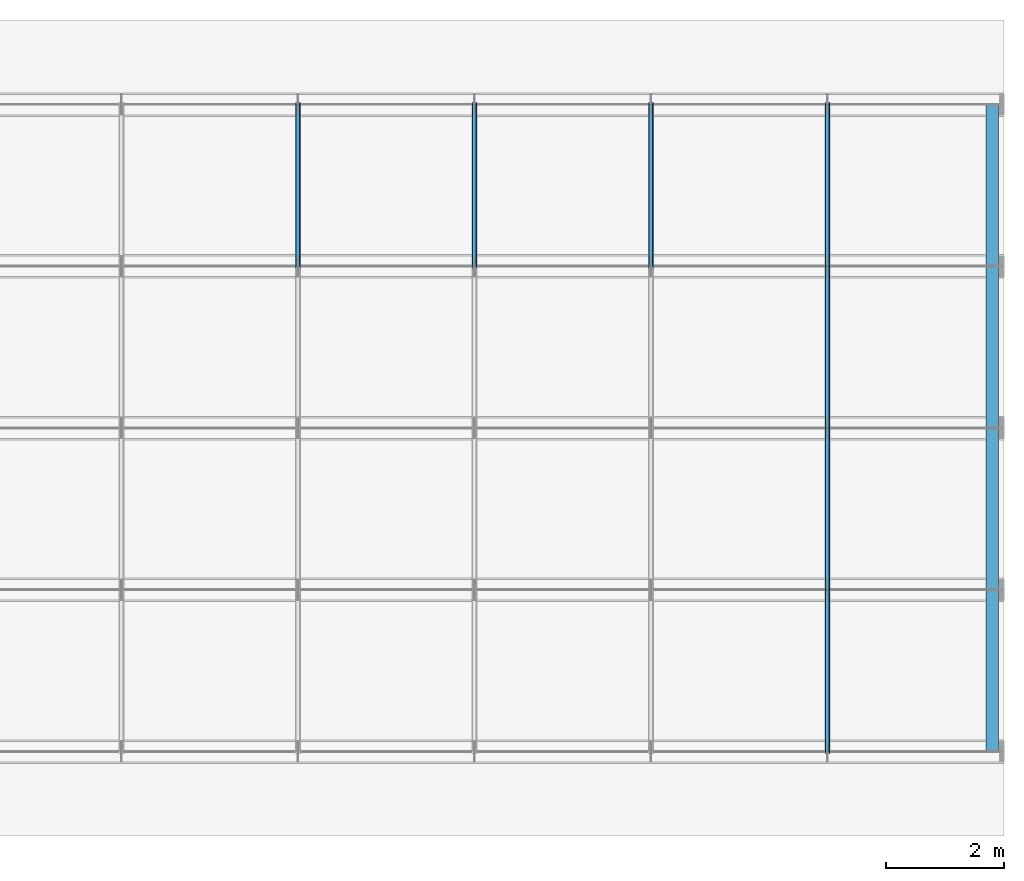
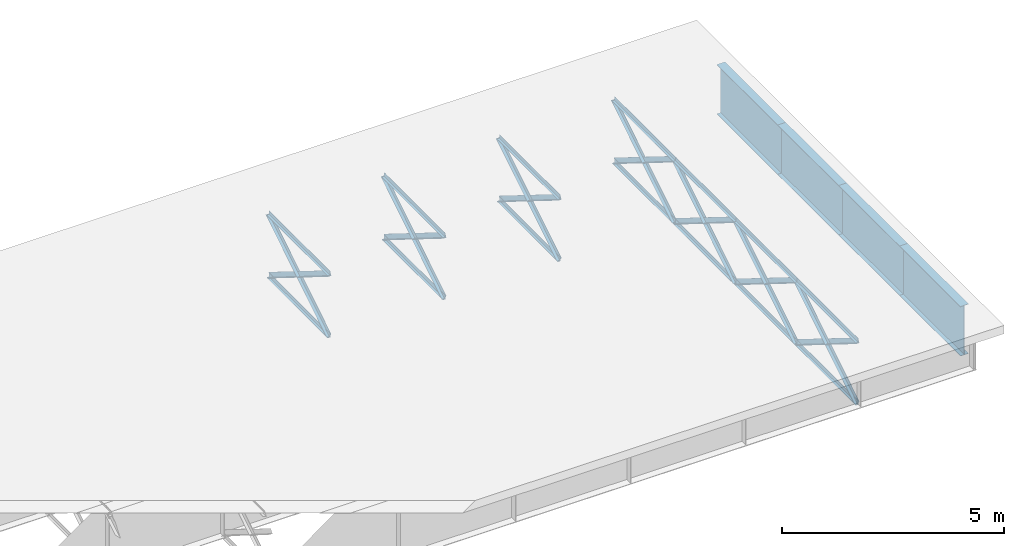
# One storey, part 2 of 17: 32 members.
"""IFC4 building model written with IfcOpenShell, lengths in metres."""

from ifc_helpers import new_model, si_unit, frame, origin, origin_with_axes, origin_2d_with_axis, place, context, subcontext, project, spatial, i_section, l_section, extrude, element, save


model = new_model("IFC4")

# Units and contexts
model_context = context("Model", 3, precision=1e-05, world=origin())
body_context = subcontext(model_context, "Body", "Model", "MODEL_VIEW")
ifc_project = project(units=[si_unit("LENGTHUNIT", "METRE"), si_unit("AREAUNIT", "SQUARE_METRE"), si_unit("VOLUMEUNIT", "CUBIC_METRE"), si_unit("PLANEANGLEUNIT", "RADIAN")], contexts=[model_context])

# Site, building, storey
site_placement = place(None, origin_with_axes())
site = spatial("IfcSite", under=ifc_project, at=site_placement, Name="Default Site")
building_placement = place(site_placement, origin_with_axes())
building = spatial("IfcBuilding", under=site, at=building_placement, Name="Bridge Structure")
storey_placement = place(building_placement, origin_with_axes())
storey = spatial("IfcBuildingStorey", under=building, at=storey_placement, Name="Superstructure")

# Members
for number, where, z_axis, x_axis, name in (
    (1, (18.0, 2.75, 0.857), (0.0, 0.8486564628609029, -0.5289444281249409), (-1.0, 0.0, 0.0), "Diagonal Brace"),
    (2, (18.0, 2.75, -0.857), (0.0, 0.8486564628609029, 0.5289444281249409), (-1.0, 0.0, 0.0), "Diagonal Brace"),
):
    element("IfcMember", number, at=place(storey_placement, frame(where, z_axis=z_axis, x_axis=x_axis)), inside=storey, Name=name, context=body_context, shape_type="SweptSolid", body=[
        extrude(l_section(Depth=0.128, Width=0.085, Thickness=0.008, at=origin_2d_with_axis()), origin_with_axes(), (0.0, 0.0, 1.0), 3.240416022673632),
    ])
for number, where, z_axis, x_axis, name in (
    (3, (18.0, 2.75, -0.857), (0.0, 1.0, 0.0), (-1.0, 0.0, 0.0), "Bottom Chord"),
    (4, (18.0, 2.75, 0.857), (0.0, 1.0, 0.0), (-1.0, 0.0, 0.0), "Top Chord"),
):
    element("IfcMember", number, at=place(storey_placement, frame(where, z_axis=z_axis, x_axis=x_axis)), inside=storey, Name=name, context=body_context, shape_type="SweptSolid", body=[
        extrude(l_section(Depth=0.111, Width=0.068, Thickness=0.008, at=origin_2d_with_axis()), origin_with_axes(), (0.0, 0.0, 1.0), 2.75),
    ])
for number, where, z_axis, x_axis, name in (
    (5, (21.0, 2.75, 0.857), (0.0, 0.8486564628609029, -0.5289444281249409), (-1.0, 0.0, 0.0), "Diagonal Brace"),
    (6, (21.0, 2.75, -0.857), (0.0, 0.8486564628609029, 0.5289444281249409), (-1.0, 0.0, 0.0), "Diagonal Brace"),
):
    element("IfcMember", number, at=place(storey_placement, frame(where, z_axis=z_axis, x_axis=x_axis)), inside=storey, Name=name, context=body_context, shape_type="SweptSolid", body=[
        extrude(l_section(Depth=0.128, Width=0.085, Thickness=0.008, at=origin_2d_with_axis()), origin_with_axes(), (0.0, 0.0, 1.0), 3.240416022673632),
    ])
for number, where, z_axis, x_axis, name in (
    (7, (21.0, 2.75, -0.857), (0.0, 1.0, 0.0), (-1.0, 0.0, 0.0), "Bottom Chord"),
    (8, (21.0, 2.75, 0.857), (0.0, 1.0, 0.0), (-1.0, 0.0, 0.0), "Top Chord"),
):
    element("IfcMember", number, at=place(storey_placement, frame(where, z_axis=z_axis, x_axis=x_axis)), inside=storey, Name=name, context=body_context, shape_type="SweptSolid", body=[
        extrude(l_section(Depth=0.111, Width=0.068, Thickness=0.008, at=origin_2d_with_axis()), origin_with_axes(), (0.0, 0.0, 1.0), 2.75),
    ])
for number, where, z_axis, x_axis, name in (
    (9, (24.0, 2.75, 0.857), (0.0, 0.8486564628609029, -0.5289444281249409), (-1.0, 0.0, 0.0), "Diagonal Brace"),
    (10, (24.0, 2.75, -0.857), (0.0, 0.8486564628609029, 0.5289444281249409), (-1.0, 0.0, 0.0), "Diagonal Brace"),
):
    element("IfcMember", number, at=place(storey_placement, frame(where, z_axis=z_axis, x_axis=x_axis)), inside=storey, Name=name, context=body_context, shape_type="SweptSolid", body=[
        extrude(l_section(Depth=0.128, Width=0.085, Thickness=0.008, at=origin_2d_with_axis()), origin_with_axes(), (0.0, 0.0, 1.0), 3.240416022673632),
    ])
for number, where, z_axis, x_axis, name in (
    (11, (24.0, 2.75, -0.857), (0.0, 1.0, 0.0), (-1.0, 0.0, 0.0), "Bottom Chord"),
    (12, (24.0, 2.75, 0.857), (0.0, 1.0, 0.0), (-1.0, 0.0, 0.0), "Top Chord"),
):
    element("IfcMember", number, at=place(storey_placement, frame(where, z_axis=z_axis, x_axis=x_axis)), inside=storey, Name=name, context=body_context, shape_type="SweptSolid", body=[
        extrude(l_section(Depth=0.111, Width=0.068, Thickness=0.008, at=origin_2d_with_axis()), origin_with_axes(), (0.0, 0.0, 1.0), 2.75),
    ])
for number, where, z_axis, x_axis, name in (
    (13, (27.0, -5.5, 0.857), (0.0, 0.8486564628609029, -0.5289444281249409), (-1.0, 0.0, 0.0), "Diagonal Brace"),
    (14, (27.0, -5.5, -0.857), (0.0, 0.8486564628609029, 0.5289444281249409), (-1.0, 0.0, 0.0), "Diagonal Brace"),
):
    element("IfcMember", number, at=place(storey_placement, frame(where, z_axis=z_axis, x_axis=x_axis)), inside=storey, Name=name, context=body_context, shape_type="SweptSolid", body=[
        extrude(l_section(Depth=0.128, Width=0.085, Thickness=0.008, at=origin_2d_with_axis()), origin_with_axes(), (0.0, 0.0, 1.0), 3.240416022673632),
    ])
for number, where, z_axis, x_axis, name in (
    (15, (27.0, -5.5, -0.857), (0.0, 1.0, 0.0), (-1.0, 0.0, 0.0), "Bottom Chord"),
    (16, (27.0, -5.5, 0.857), (0.0, 1.0, 0.0), (-1.0, 0.0, 0.0), "Top Chord"),
):
    element("IfcMember", number, at=place(storey_placement, frame(where, z_axis=z_axis, x_axis=x_axis)), inside=storey, Name=name, context=body_context, shape_type="SweptSolid", body=[
        extrude(l_section(Depth=0.111, Width=0.068, Thickness=0.008, at=origin_2d_with_axis()), origin_with_axes(), (0.0, 0.0, 1.0), 2.75),
    ])
for number, where, z_axis, x_axis, name in (
    (17, (27.0, -2.75, 0.857), (0.0, 0.8486564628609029, -0.5289444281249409), (-1.0, 0.0, 0.0), "Diagonal Brace"),
    (18, (27.0, -2.75, -0.857), (0.0, 0.8486564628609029, 0.5289444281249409), (-1.0, 0.0, 0.0), "Diagonal Brace"),
):
    element("IfcMember", number, at=place(storey_placement, frame(where, z_axis=z_axis, x_axis=x_axis)), inside=storey, Name=name, context=body_context, shape_type="SweptSolid", body=[
        extrude(l_section(Depth=0.128, Width=0.085, Thickness=0.008, at=origin_2d_with_axis()), origin_with_axes(), (0.0, 0.0, 1.0), 3.240416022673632),
    ])
for number, where, z_axis, x_axis, name in (
    (19, (27.0, -2.75, -0.857), (0.0, 1.0, 0.0), (-1.0, 0.0, 0.0), "Bottom Chord"),
    (20, (27.0, -2.75, 0.857), (0.0, 1.0, 0.0), (-1.0, 0.0, 0.0), "Top Chord"),
):
    element("IfcMember", number, at=place(storey_placement, frame(where, z_axis=z_axis, x_axis=x_axis)), inside=storey, Name=name, context=body_context, shape_type="SweptSolid", body=[
        extrude(l_section(Depth=0.111, Width=0.068, Thickness=0.008, at=origin_2d_with_axis()), origin_with_axes(), (0.0, 0.0, 1.0), 2.75),
    ])
for number, where, z_axis, x_axis, name in (
    (21, (27.0, 0.0, 0.857), (0.0, 0.8486564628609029, -0.5289444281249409), (-1.0, 0.0, 0.0), "Diagonal Brace"),
    (22, (27.0, 0.0, -0.857), (0.0, 0.8486564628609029, 0.5289444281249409), (-1.0, 0.0, 0.0), "Diagonal Brace"),
):
    element("IfcMember", number, at=place(storey_placement, frame(where, z_axis=z_axis, x_axis=x_axis)), inside=storey, Name=name, context=body_context, shape_type="SweptSolid", body=[
        extrude(l_section(Depth=0.128, Width=0.085, Thickness=0.008, at=origin_2d_with_axis()), origin_with_axes(), (0.0, 0.0, 1.0), 3.240416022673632),
    ])
for number, where, z_axis, x_axis, name in (
    (23, (27.0, 0.0, -0.857), (0.0, 1.0, 0.0), (-1.0, 0.0, 0.0), "Bottom Chord"),
    (24, (27.0, 0.0, 0.857), (0.0, 1.0, 0.0), (-1.0, 0.0, 0.0), "Top Chord"),
):
    element("IfcMember", number, at=place(storey_placement, frame(where, z_axis=z_axis, x_axis=x_axis)), inside=storey, Name=name, context=body_context, shape_type="SweptSolid", body=[
        extrude(l_section(Depth=0.111, Width=0.068, Thickness=0.008, at=origin_2d_with_axis()), origin_with_axes(), (0.0, 0.0, 1.0), 2.75),
    ])
for number, where, z_axis, x_axis, name in (
    (25, (27.0, 2.75, 0.857), (0.0, 0.8486564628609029, -0.5289444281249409), (-1.0, 0.0, 0.0), "Diagonal Brace"),
    (26, (27.0, 2.75, -0.857), (0.0, 0.8486564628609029, 0.5289444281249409), (-1.0, 0.0, 0.0), "Diagonal Brace"),
):
    element("IfcMember", number, at=place(storey_placement, frame(where, z_axis=z_axis, x_axis=x_axis)), inside=storey, Name=name, context=body_context, shape_type="SweptSolid", body=[
        extrude(l_section(Depth=0.128, Width=0.085, Thickness=0.008, at=origin_2d_with_axis()), origin_with_axes(), (0.0, 0.0, 1.0), 3.240416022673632),
    ])
for number, where, z_axis, x_axis, name in (
    (27, (27.0, 2.75, -0.857), (0.0, 1.0, 0.0), (-1.0, 0.0, 0.0), "Bottom Chord"),
    (28, (27.0, 2.75, 0.857), (0.0, 1.0, 0.0), (-1.0, 0.0, 0.0), "Top Chord"),
):
    element("IfcMember", number, at=place(storey_placement, frame(where, z_axis=z_axis, x_axis=x_axis)), inside=storey, Name=name, context=body_context, shape_type="SweptSolid", body=[
        extrude(l_section(Depth=0.111, Width=0.068, Thickness=0.008, at=origin_2d_with_axis()), origin_with_axes(), (0.0, 0.0, 1.0), 2.75),
    ])
for number, where, z_axis, x_axis, name in (
    (29, (29.8, -5.5, 0.1715), (0.0, 1.0, 0.0), (-1.0, 0.0, 0.0), "End Diaphragm"),
    (30, (29.8, -2.75, 0.1715), (0.0, 1.0, 0.0), (-1.0, 0.0, 0.0), "End Diaphragm"),
    (31, (29.8, 0.0, 0.1715), (0.0, 1.0, 0.0), (-1.0, 0.0, 0.0), "End Diaphragm"),
    (32, (29.8, 2.75, 0.1715), (0.0, 1.0, 0.0), (-1.0, 0.0, 0.0), "End Diaphragm"),
):
    element("IfcMember", number, at=place(storey_placement, frame(where, z_axis=z_axis, x_axis=x_axis)), inside=storey, Name=name, context=body_context, shape_type="SweptSolid", body=[
        extrude(i_section(OverallWidth=0.21, OverallDepth=1.371, WebThickness=0.014, FlangeThickness=0.012, at=origin_2d_with_axis()), origin_with_axes(), (0.0, 0.0, 1.0), 2.75),
    ])

save(model, "model.ifc")
